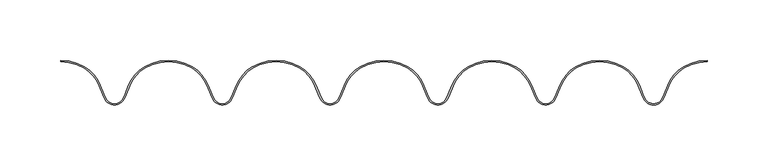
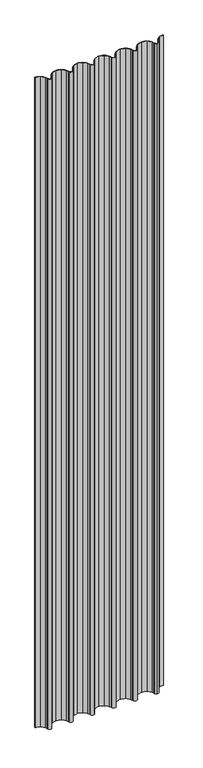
"""IFC4 building model written with IfcOpenShell, lengths in millimetres: plate geometry, Regolare Vertical 534 : Regolare Vertical 534."""

from ifc_helpers import new_model, si_unit, point, frame_2d, origin, origin_with_axes, place, context, project, spatial, polyline, circle_curve, trimmed, segment, composite_curve, outline, extrude, source, transform, mapped, element, save


def plate_57fa1317(model_context):
    return source(origin(), model_context, "Body", "SweptSolid", [
        extrude(outline(composite_curve([segment(trimmed(circle_curve(frame_2d((263.588822, -32.6206681)), 30.6166783), [point((247.6137171, -6.5021495))], [point((235.1617322, -21.2504634))], True, "CARTESIAN"), True, "CONTINUOUS"), segment(polyline([(235.1617322, -21.2504634), (232.2801463, -28.4448583), (230.6195215, -31.9093405)]), True, "CONTINUOUS"), segment(trimmed(circle_curve(frame_2d((222.6287227, -28.0791236)), 8.8613445), [point((230.6195215, -31.9093405))], [point((222.6287227, -36.9404682))], False, "CARTESIAN"), True, "CONTINUOUS"), segment(trimmed(circle_curve(frame_2d((222.6287227, -28.0791236)), 8.8613445), [point((222.6287227, -36.9404682))], [point((214.6379239, -31.9093405))], False, "CARTESIAN"), True, "CONTINUOUS"), segment(polyline([(214.6379239, -31.9093405), (212.9772992, -28.4448583), (210.0957133, -21.2504634)]), True, "CONTINUOUS"), segment(trimmed(circle_curve(frame_2d((181.6686234, -32.6206681)), 30.6166783), [point((210.0957133, -21.2504634))], [point((197.6437283, -6.5021495))], True, "CARTESIAN"), True, "CONTINUOUS"), segment(trimmed(circle_curve(frame_2d((178.1029782, -38.4503244)), 37.4503244), [point((197.6437283, -6.5021495))], [point((178.1029782, -1.0))], True, "CARTESIAN"), True, "CONTINUOUS"), segment(trimmed(circle_curve(frame_2d((178.1029782, -38.4503244)), 37.4503244), [point((178.1029782, -1.0))], [point((158.562228, -6.5021495))], True, "CARTESIAN"), True, "CONTINUOUS"), segment(trimmed(circle_curve(frame_2d((174.5373329, -32.6206681)), 30.6166783), [point((158.562228, -6.5021495))], [point((146.1102431, -21.2504634))], True, "CARTESIAN"), True, "CONTINUOUS"), segment(polyline([(146.1102431, -21.2504634), (143.2286572, -28.4448583), (141.5680324, -31.9093405)]), True, "CONTINUOUS"), segment(trimmed(circle_curve(frame_2d((133.5772336, -28.0791236)), 8.8613445), [point((141.5680324, -31.9093405))], [point((125.5864348, -31.9093405))], False, "CARTESIAN"), True, "CONTINUOUS"), segment(polyline([(125.5864348, -31.9093405), (123.9258101, -28.4448583), (121.0442242, -21.2504634)]), True, "CONTINUOUS"), segment(trimmed(circle_curve(frame_2d((92.6171343, -32.6206681)), 30.6166783), [point((121.0442242, -21.2504634))], [point((108.5922392, -6.5021495))], True, "CARTESIAN"), True, "CONTINUOUS"), segment(trimmed(circle_curve(frame_2d((89.0514891, -38.4503244)), 37.4503244), [point((108.5922392, -6.5021495))], [point((89.0514891, -1.0))], True, "CARTESIAN"), True, "CONTINUOUS"), segment(trimmed(circle_curve(frame_2d((89.0514891, -38.4503244)), 37.4503244), [point((89.0514891, -1.0))], [point((69.5107389, -6.5021495))], True, "CARTESIAN"), True, "CONTINUOUS"), segment(trimmed(circle_curve(frame_2d((85.4858438, -32.6206681)), 30.6166783), [point((69.5107389, -6.5021495))], [point((57.058754, -21.2504634))], True, "CARTESIAN"), True, "CONTINUOUS"), segment(polyline([(57.058754, -21.2504634), (54.1771681, -28.4448583), (52.5165434, -31.9093405)]), True, "CONTINUOUS"), segment(trimmed(circle_curve(frame_2d((44.5257445, -28.0791236)), 8.8613445), [point((52.5165434, -31.9093405))], [point((36.5349457, -31.9093405))], False, "CARTESIAN"), True, "CONTINUOUS"), segment(polyline([(36.5349457, -31.9093405), (34.874321, -28.4448583), (31.9927351, -21.2504634)]), True, "CONTINUOUS"), segment(trimmed(circle_curve(frame_2d((3.5656452, -32.6206681)), 30.6166783), [point((31.9927351, -21.2504634))], [point((19.5407501, -6.5021495))], True, "CARTESIAN"), True, "CONTINUOUS"), segment(trimmed(circle_curve(frame_2d((0.0, -38.4503244)), 37.4503244), [point((19.5407501, -6.5021495))], [point((0.0, -1.0))], True, "CARTESIAN"), True, "CONTINUOUS"), segment(trimmed(circle_curve(frame_2d((0.0, -38.4503244)), 37.4503244), [point((0.0, -1.0))], [point((-19.5407501, -6.5021495))], True, "CARTESIAN"), True, "CONTINUOUS"), segment(trimmed(circle_curve(frame_2d((-3.5656452, -32.6206681)), 30.6166783), [point((-19.5407501, -6.5021495))], [point((-31.9927351, -21.2504634))], True, "CARTESIAN"), True, "CONTINUOUS"), segment(polyline([(-31.9927351, -21.2504634), (-34.874321, -28.4448583), (-36.5349457, -31.9093405)]), True, "CONTINUOUS"), segment(trimmed(circle_curve(frame_2d((-44.5257445, -28.0791236)), 8.8613445), [point((-36.5349457, -31.9093405))], [point((-52.5165434, -31.9093405))], False, "CARTESIAN"), True, "CONTINUOUS"), segment(polyline([(-52.5165434, -31.9093405), (-54.1771681, -28.4448583), (-57.058754, -21.2504634)]), True, "CONTINUOUS"), segment(trimmed(circle_curve(frame_2d((-85.4858438, -32.6206681)), 30.6166783), [point((-57.058754, -21.2504634))], [point((-69.5107389, -6.5021495))], True, "CARTESIAN"), True, "CONTINUOUS"), segment(trimmed(circle_curve(frame_2d((-89.0514891, -38.4503244)), 37.4503244), [point((-69.5107389, -6.5021495))], [point((-89.0514891, -1.0))], True, "CARTESIAN"), True, "CONTINUOUS"), segment(trimmed(circle_curve(frame_2d((-89.0514891, -38.4503244)), 37.4503244), [point((-89.0514891, -1.0))], [point((-108.5922392, -6.5021495))], True, "CARTESIAN"), True, "CONTINUOUS"), segment(trimmed(circle_curve(frame_2d((-92.6171343, -32.6206681)), 30.6166783), [point((-108.5922392, -6.5021495))], [point((-121.0442242, -21.2504634))], True, "CARTESIAN"), True, "CONTINUOUS"), segment(polyline([(-121.0442242, -21.2504634), (-123.9258101, -28.4448583), (-125.5864348, -31.9093405)]), True, "CONTINUOUS"), segment(trimmed(circle_curve(frame_2d((-133.5772336, -28.0791236)), 8.8613445), [point((-125.5864348, -31.9093405))], [point((-141.5680324, -31.9093405))], False, "CARTESIAN"), True, "CONTINUOUS"), segment(polyline([(-141.5680324, -31.9093405), (-143.2286572, -28.4448583), (-146.1102431, -21.2504634)]), True, "CONTINUOUS"), segment(trimmed(circle_curve(frame_2d((-174.5373329, -32.6206681)), 30.6166783), [point((-146.1102431, -21.2504634))], [point((-158.562228, -6.5021495))], True, "CARTESIAN"), True, "CONTINUOUS"), segment(trimmed(circle_curve(frame_2d((-178.1029782, -38.4503244)), 37.4503244), [point((-158.562228, -6.5021495))], [point((-178.1029782, -1.0))], True, "CARTESIAN"), True, "CONTINUOUS"), segment(trimmed(circle_curve(frame_2d((-178.1029782, -38.4503244)), 37.4503244), [point((-178.1029782, -1.0))], [point((-197.6437283, -6.5021495))], True, "CARTESIAN"), True, "CONTINUOUS"), segment(trimmed(circle_curve(frame_2d((-181.6686234, -32.6206681)), 30.6166783), [point((-197.6437283, -6.5021495))], [point((-210.0957132, -21.2504634))], True, "CARTESIAN"), True, "CONTINUOUS"), segment(polyline([(-210.0957132, -21.2504634), (-212.9772992, -28.4448583), (-214.6379239, -31.9093405)]), True, "CONTINUOUS"), segment(trimmed(circle_curve(frame_2d((-222.6287227, -28.0791236)), 8.8613445), [point((-214.6379239, -31.9093405))], [point((-230.6195215, -31.9093405))], False, "CARTESIAN"), True, "CONTINUOUS"), segment(polyline([(-230.6195215, -31.9093405), (-232.2801463, -28.4448583), (-235.1617322, -21.2504634)]), True, "CONTINUOUS"), segment(trimmed(circle_curve(frame_2d((-263.588822, -32.6206681)), 30.6166783), [point((-235.1617322, -21.2504634))], [point((-247.6137171, -6.5021495))], True, "CARTESIAN"), True, "CONTINUOUS"), segment(trimmed(circle_curve(frame_2d((-267.1544672, -38.4503244)), 37.4503244), [point((-247.6137171, -6.5021495))], [point((-267.1544672, -1.0))], True, "CARTESIAN"), True, "CONTINUOUS"), segment(polyline([(-267.1544672, -1.0), (-267.1544672, 0.0)]), True, "CONTINUOUS"), segment(trimmed(circle_curve(frame_2d((-267.1544672, -38.4503244)), 38.4503244), [point((-267.1544672, 0.0))], [point((-247.0919392, -5.6490681))], False, "CARTESIAN"), True, "CONTINUOUS"), segment(trimmed(circle_curve(frame_2d((-263.588822, -32.6206681)), 31.6166783), [point((-247.0919392, -5.6490681))], [point((-234.2333378, -20.878867))], False, "CARTESIAN"), True, "CONTINUOUS"), segment(polyline([(-234.2333378, -20.878867), (-231.3641161, -28.0423924), (-229.7177623, -31.4771017)]), True, "CONTINUOUS"), segment(trimmed(circle_curve(frame_2d((-222.6287227, -28.0791236)), 7.8613445), [point((-229.7177623, -31.4771017))], [point((-215.5396831, -31.4771017))], True, "CARTESIAN"), True, "CONTINUOUS"), segment(polyline([(-215.5396831, -31.4771017), (-213.8933293, -28.0423924), (-211.0241076, -20.878867)]), True, "CONTINUOUS"), segment(trimmed(circle_curve(frame_2d((-181.6686234, -32.6206681)), 31.6166783), [point((-211.0241076, -20.878867))], [point((-198.1655062, -5.6490681))], False, "CARTESIAN"), True, "CONTINUOUS"), segment(trimmed(circle_curve(frame_2d((-178.1029782, -38.4503244)), 38.4503244), [point((-198.1655062, -5.6490681))], [point((-178.1029782, 0.0))], False, "CARTESIAN"), True, "CONTINUOUS"), segment(trimmed(circle_curve(frame_2d((-178.1029782, -38.4503244)), 38.4503244), [point((-178.1029782, 0.0))], [point((-158.0404502, -5.6490681))], False, "CARTESIAN"), True, "CONTINUOUS"), segment(trimmed(circle_curve(frame_2d((-174.5373329, -32.6206681)), 31.6166783), [point((-158.0404502, -5.6490681))], [point((-145.1818487, -20.878867))], False, "CARTESIAN"), True, "CONTINUOUS"), segment(polyline([(-145.1818487, -20.878867), (-142.312627, -28.0423924), (-140.6662733, -31.4771017)]), True, "CONTINUOUS"), segment(trimmed(circle_curve(frame_2d((-133.5772336, -28.0791236)), 7.8613445), [point((-140.6662733, -31.4771017))], [point((-126.488194, -31.4771017))], True, "CARTESIAN"), True, "CONTINUOUS"), segment(polyline([(-126.488194, -31.4771017), (-124.8418403, -28.0423924), (-121.9726185, -20.878867)]), True, "CONTINUOUS"), segment(trimmed(circle_curve(frame_2d((-92.6171343, -32.6206681)), 31.6166783), [point((-121.9726185, -20.878867))], [point((-109.1140171, -5.6490681))], False, "CARTESIAN"), True, "CONTINUOUS"), segment(trimmed(circle_curve(frame_2d((-89.0514891, -38.4503244)), 38.4503244), [point((-109.1140171, -5.6490681))], [point((-89.0514891, 0.0))], False, "CARTESIAN"), True, "CONTINUOUS"), segment(trimmed(circle_curve(frame_2d((-89.0514891, -38.4503244)), 38.4503244), [point((-89.0514891, 0.0))], [point((-68.9889611, -5.6490681))], False, "CARTESIAN"), True, "CONTINUOUS"), segment(trimmed(circle_curve(frame_2d((-85.4858438, -32.6206681)), 31.6166783), [point((-68.9889611, -5.6490681))], [point((-56.1303596, -20.878867))], False, "CARTESIAN"), True, "CONTINUOUS"), segment(polyline([(-56.1303596, -20.878867), (-53.2611379, -28.0423924), (-51.6147842, -31.4771017)]), True, "CONTINUOUS"), segment(trimmed(circle_curve(frame_2d((-44.5257445, -28.0791236)), 7.8613445), [point((-51.6147842, -31.4771017))], [point((-37.4367049, -31.4771017))], True, "CARTESIAN"), True, "CONTINUOUS"), segment(polyline([(-37.4367049, -31.4771017), (-35.7903512, -28.0423924), (-32.9211295, -20.878867)]), True, "CONTINUOUS"), segment(trimmed(circle_curve(frame_2d((-3.5656452, -32.6206681)), 31.6166783), [point((-32.9211295, -20.878867))], [point((-20.062528, -5.6490681))], False, "CARTESIAN"), True, "CONTINUOUS"), segment(trimmed(circle_curve(frame_2d((0.0, -38.4503244)), 38.4503244), [point((-20.062528, -5.6490681))], [point((0.0, 0.0))], False, "CARTESIAN"), True, "CONTINUOUS"), segment(trimmed(circle_curve(frame_2d((0.0, -38.4503244)), 38.4503244), [point((0.0, 0.0))], [point((20.062528, -5.6490681))], False, "CARTESIAN"), True, "CONTINUOUS"), segment(trimmed(circle_curve(frame_2d((3.5656452, -32.6206681)), 31.6166783), [point((20.062528, -5.6490681))], [point((32.9211295, -20.878867))], False, "CARTESIAN"), True, "CONTINUOUS"), segment(polyline([(32.9211295, -20.878867), (35.7903512, -28.0423924), (37.4367049, -31.4771017)]), True, "CONTINUOUS"), segment(trimmed(circle_curve(frame_2d((44.5257445, -28.0791236)), 7.8613445), [point((37.4367049, -31.4771017))], [point((51.6147842, -31.4771017))], True, "CARTESIAN"), True, "CONTINUOUS"), segment(polyline([(51.6147842, -31.4771017), (53.2611379, -28.0423924), (56.1303596, -20.878867)]), True, "CONTINUOUS"), segment(trimmed(circle_curve(frame_2d((85.4858438, -32.6206681)), 31.6166783), [point((56.1303596, -20.878867))], [point((68.9889611, -5.6490681))], False, "CARTESIAN"), True, "CONTINUOUS"), segment(trimmed(circle_curve(frame_2d((89.0514891, -38.4503244)), 38.4503244), [point((68.9889611, -5.6490681))], [point((89.0514891, 0.0))], False, "CARTESIAN"), True, "CONTINUOUS"), segment(trimmed(circle_curve(frame_2d((89.0514891, -38.4503244)), 38.4503244), [point((89.0514891, 0.0))], [point((109.1140171, -5.6490681))], False, "CARTESIAN"), True, "CONTINUOUS"), segment(trimmed(circle_curve(frame_2d((92.6171343, -32.6206681)), 31.6166783), [point((109.1140171, -5.6490681))], [point((121.9726185, -20.878867))], False, "CARTESIAN"), True, "CONTINUOUS"), segment(polyline([(121.9726185, -20.878867), (124.8418403, -28.0423924), (126.488194, -31.4771017)]), True, "CONTINUOUS"), segment(trimmed(circle_curve(frame_2d((133.5772336, -28.0791236)), 7.8613445), [point((126.488194, -31.4771017))], [point((140.6662733, -31.4771017))], True, "CARTESIAN"), True, "CONTINUOUS"), segment(polyline([(140.6662733, -31.4771017), (142.312627, -28.0423924), (145.1818487, -20.878867)]), True, "CONTINUOUS"), segment(trimmed(circle_curve(frame_2d((174.5373329, -32.6206681)), 31.6166783), [point((145.1818487, -20.878867))], [point((158.0404502, -5.6490681))], False, "CARTESIAN"), True, "CONTINUOUS"), segment(trimmed(circle_curve(frame_2d((178.1029782, -38.4503244)), 38.4503244), [point((158.0404502, -5.6490681))], [point((178.1029782, 0.0))], False, "CARTESIAN"), True, "CONTINUOUS"), segment(trimmed(circle_curve(frame_2d((178.1029782, -38.4503244)), 38.4503244), [point((178.1029782, 0.0))], [point((198.1655062, -5.6490681))], False, "CARTESIAN"), True, "CONTINUOUS"), segment(trimmed(circle_curve(frame_2d((181.6686234, -32.6206681)), 31.6166783), [point((198.1655062, -5.6490681))], [point((211.0241076, -20.878867))], False, "CARTESIAN"), True, "CONTINUOUS"), segment(polyline([(211.0241076, -20.878867), (213.8933293, -28.0423924), (215.5396831, -31.4771017)]), True, "CONTINUOUS"), segment(trimmed(circle_curve(frame_2d((222.6287227, -28.0791236)), 7.8613445), [point((215.5396831, -31.4771017))], [point((222.6287227, -35.9404682))], True, "CARTESIAN"), True, "CONTINUOUS"), segment(trimmed(circle_curve(frame_2d((222.6287227, -28.0791236)), 7.8613445), [point((222.6287227, -35.9404682))], [point((229.7177623, -31.4771017))], True, "CARTESIAN"), True, "CONTINUOUS"), segment(polyline([(229.7177623, -31.4771017), (231.3641161, -28.0423924), (234.2333378, -20.878867)]), True, "CONTINUOUS"), segment(trimmed(circle_curve(frame_2d((263.588822, -32.6206681)), 31.6166783), [point((234.2333378, -20.878867))], [point((247.0919392, -5.6490681))], False, "CARTESIAN"), True, "CONTINUOUS"), segment(trimmed(circle_curve(frame_2d((267.1544672, -38.4503244)), 38.4503244), [point((247.0919392, -5.6490681))], [point((267.1544672, 0.0))], False, "CARTESIAN"), True, "CONTINUOUS"), segment(polyline([(267.1544672, 0.0), (267.1544672, -1.0)]), True, "CONTINUOUS"), segment(trimmed(circle_curve(frame_2d((267.1544672, -38.4503244)), 37.4503244), [point((267.1544672, -1.0))], [point((247.6137171, -6.5021495))], True, "CARTESIAN"), True, "CONTINUOUS")], self_intersect=False)), origin_with_axes(), (0.0, 0.0, 1.0), 2859.2009216),
    ])


if __name__ == "__main__":
    model = new_model("IFC4")
    model_context = context("Model", 3, world=origin())
    ifc_project = project(units=[si_unit("LENGTHUNIT", "METRE", prefix="MILLI")], contexts=[model_context])
    site = spatial("IfcSite", under=ifc_project)
    building = spatial("IfcBuilding", under=site)
    placement = place(None, origin())
    plate_shape = plate_57fa1317(model_context)
    element("IfcPlate", 1, ObjectType="Regolare Vertical 534 : Regolare Vertical 534", at=placement, inside=building, context=model_context, shape_type="MappedRepresentation", body=[
        mapped(plate_shape, transform((0.0, 0.0, 0.0), x_axis=(1.0, 0.0, 0.0), y_axis=(0.0, 1.0, 0.0), z_axis=(0.0, 0.0, 1.0))),
    ])
    save(model, "model.ifc")
